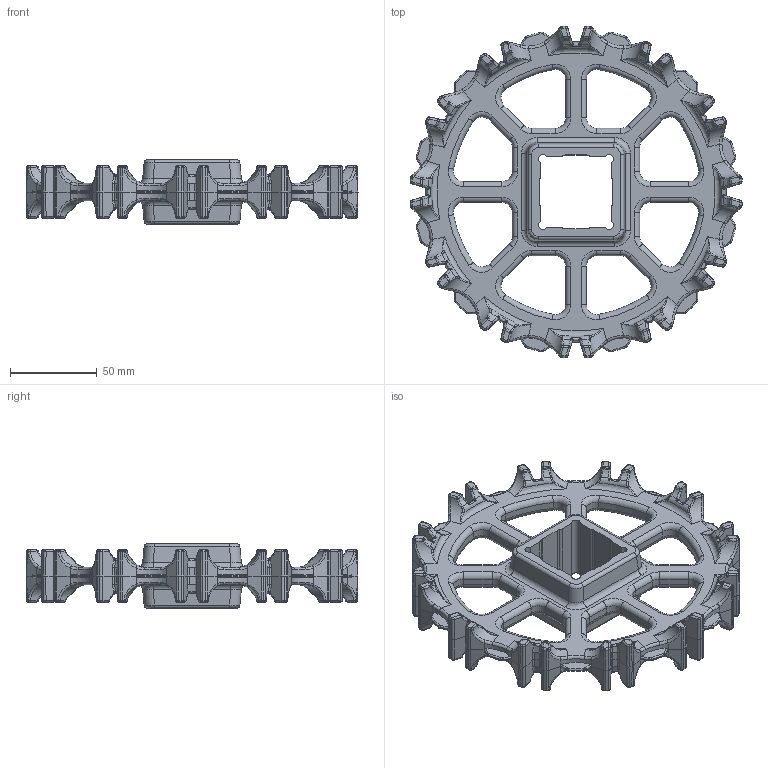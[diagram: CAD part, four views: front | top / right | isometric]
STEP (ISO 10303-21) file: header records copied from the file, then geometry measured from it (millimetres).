
FILE_DESCRIPTION(/* description */ (''),/* implementation_level */ '2;1');
FILE_NAME(/* name */ 'HS-100A-HD-N-12T.stp',/* time_stamp */ '2021-10-11T17:06:23+08:00',/* author */ (''),/* organization */ (''),/* preprocessor_version */ 'ST-DEVELOPER v15',/* originating_system */ 'SIEMENS PLM Software NX 8.5',/* authorisation */ '');
FILE_SCHEMA (('AP203_CONFIGURATION_CONTROLLED_3D_DESIGN_OF_MECHANICAL_PARTS_AND_ASSEMBLIES_MIM_LF { 1 0 10303 403 2 1 2}'));
Products named in the file (1): Admi2730807Fse5r
Bounding box: 190.85 x 190.85 x 37 mm (x, y, z)
Volume: 235259.1 mm3; surface area: 71524.4 mm2
Topology: 1 solids, 1 shells, 2228 faces, 5392 edges, 2980 vertices
Faces by surface type: bspline 768, cylinder 742, plane 384, torus 220, sphere 90, cone 24
Entity records: 90954 total; most frequent: CARTESIAN_POINT 28888, ORIENTED_EDGE 10408, DIRECTION 9061, EDGE_CURVE 5204, AXIS2_PLACEMENT_3D 3745, VERTEX_POINT 2980, EDGE_LOOP 2248, PRESENTATION_STYLE_ASSIGNMENT 2230
